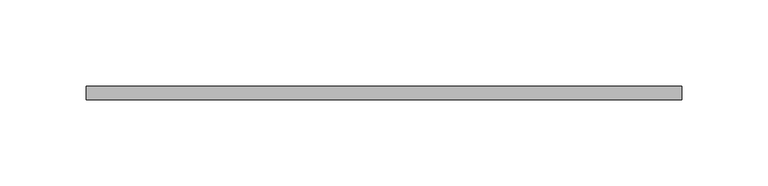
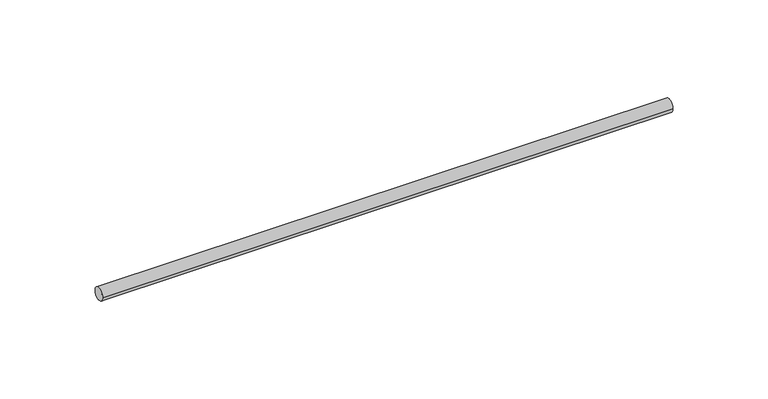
"""IFC4 building model written with IfcOpenShell, lengths in millimetres: valve geometry, Superfix Threaded Rod (used for clamps) : Threaded Rod  Extra  - 1000 mm (used for clamps)."""

from ifc_helpers import new_model, si_unit, point, frame, origin, origin_2d, place, context, project, spatial, circle_curve, trimmed, segment, composite_curve, outline, extrude, source, transform, mapped, element, save


def valve_1a4baf8e(model_context):
    return source(origin(), model_context, "Body", "SweptSolid", [
        extrude(outline(composite_curve([segment(trimmed(circle_curve(origin_2d(), 4.0), [point((-4.0, 0.0))], [point((4.0, 0.0))], False, "CARTESIAN"), True, "CONTINUOUS"), segment(trimmed(circle_curve(origin_2d(), 4.0), [point((4.0, 0.0))], [point((-4.0, 0.0))], False, "CARTESIAN"), True, "CONTINUOUS")], self_intersect=False)), frame((-10.0, 0.0, 0.0), z_axis=(1.0, 0.0, 0.0), x_axis=(0.0, 1.0, 0.0)), (0.0, 0.0, 1.0), 346.5002332),
    ])


if __name__ == "__main__":
    model = new_model("IFC4")
    model_context = context("Model", 3, world=origin())
    ifc_project = project(units=[si_unit("LENGTHUNIT", "METRE", prefix="MILLI")], contexts=[model_context])
    site = spatial("IfcSite", under=ifc_project)
    building = spatial("IfcBuilding", under=site)
    placement = place(None, origin())
    valve_shape = valve_1a4baf8e(model_context)
    element("IfcValve", 1, ObjectType="Superfix Threaded Rod (used for clamps) : Threaded Rod  Extra  - 1000 mm (used for clamps)", at=placement, inside=building, context=model_context, shape_type="MappedRepresentation", body=[
        mapped(valve_shape, transform((0.0, 0.0, 0.0), x_axis=(1.0, 0.0, 0.0), y_axis=(0.0, 1.0, 0.0), z_axis=(0.0, 0.0, 1.0))),
    ])
    save(model, "model.ifc")
